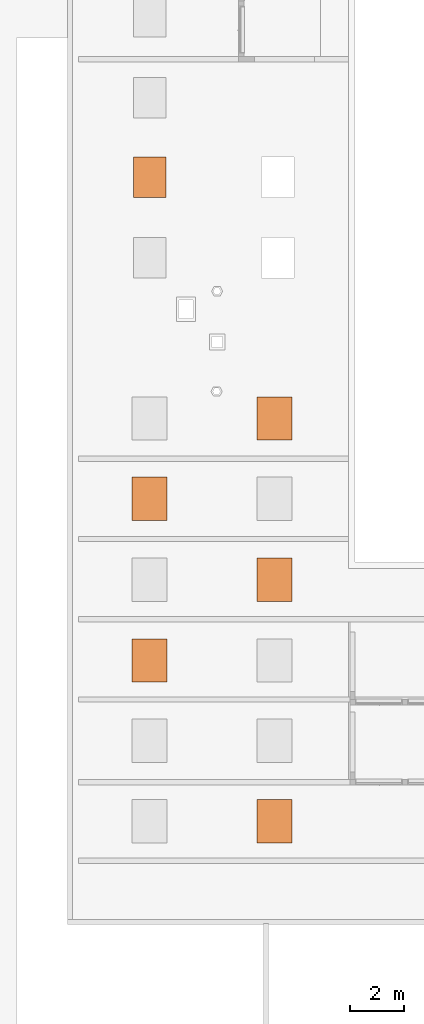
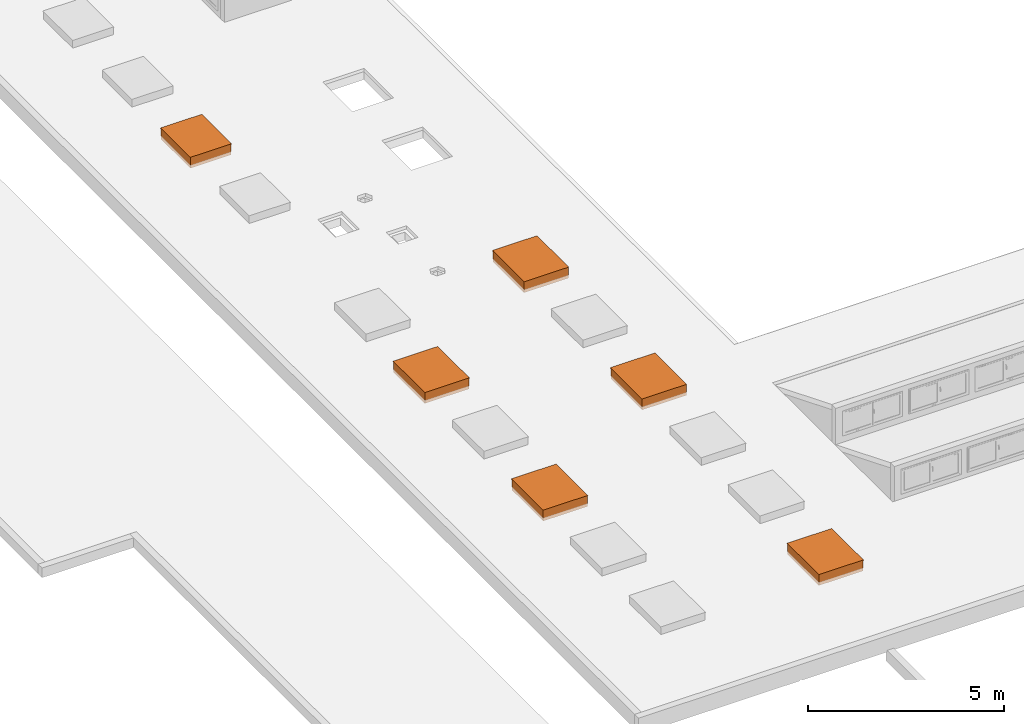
# One storey, part 3 of 4: 6 proxies.
"""IFC2X3 building model written with IfcOpenShell, lengths in metres."""

from ifc_helpers import new_model, entity, si_unit, converted_unit, derived_unit, direction, frame, origin, place, context, subcontext, project, spatial, faceted_brep, source, transform, mapped, material, material_list, type_object, type_shapes, element, save


model = new_model("IFC2X3")

# Units and contexts
model_context = context("Model", 3, precision=1e-05, world=origin(), true_north=direction((6.12303176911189e-17, 1.0)))
body_context = subcontext(model_context, "Body", "Model", "MODEL_VIEW")
ifc_project = project(units=[si_unit("LENGTHUNIT", "METRE"), si_unit("AREAUNIT", "SQUARE_METRE"), si_unit("VOLUMEUNIT", "CUBIC_METRE"), converted_unit("PLANEANGLEUNIT", "DEGREE", entity("IfcRatioMeasure", 0.0174532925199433), si_unit("PLANEANGLEUNIT", "RADIAN"), dimensions=[0, 0, 0, 0, 0, 0, 0]), si_unit("MASSUNIT", "GRAM", prefix="KILO"), derived_unit("MASSDENSITYUNIT", [(si_unit("MASSUNIT", "GRAM", prefix="KILO"), 1), (si_unit("LENGTHUNIT", "METRE"), -3)]), derived_unit("MOMENTOFINERTIAUNIT", [(si_unit("LENGTHUNIT", "METRE"), 4)]), si_unit("TIMEUNIT", "SECOND"), si_unit("FREQUENCYUNIT", "HERTZ"), si_unit("THERMODYNAMICTEMPERATUREUNIT", "DEGREE_CELSIUS"), derived_unit("THERMALTRANSMITTANCEUNIT", [(si_unit("MASSUNIT", "GRAM", prefix="KILO"), 1), (si_unit("THERMODYNAMICTEMPERATUREUNIT", "KELVIN"), -1), (si_unit("TIMEUNIT", "SECOND"), -3)]), derived_unit("VOLUMETRICFLOWRATEUNIT", [(si_unit("LENGTHUNIT", "METRE"), 3), (si_unit("TIMEUNIT", "SECOND"), -1)]), si_unit("ELECTRICCURRENTUNIT", "AMPERE"), si_unit("ELECTRICVOLTAGEUNIT", "VOLT"), si_unit("POWERUNIT", "WATT"), si_unit("FORCEUNIT", "NEWTON", prefix="KILO"), si_unit("ILLUMINANCEUNIT", "LUX"), si_unit("LUMINOUSFLUXUNIT", "LUMEN"), si_unit("LUMINOUSINTENSITYUNIT", "CANDELA"), derived_unit("USERDEFINED", [(si_unit("MASSUNIT", "GRAM", prefix="KILO"), -1), (si_unit("LENGTHUNIT", "METRE"), -2), (si_unit("TIMEUNIT", "SECOND"), 3), (si_unit("LUMINOUSFLUXUNIT", "LUMEN"), 1)]), derived_unit("LINEARVELOCITYUNIT", [(si_unit("LENGTHUNIT", "METRE"), 1), (si_unit("TIMEUNIT", "SECOND"), -1)]), si_unit("PRESSUREUNIT", "PASCAL"), derived_unit("USERDEFINED", [(si_unit("LENGTHUNIT", "METRE"), -2), (si_unit("MASSUNIT", "GRAM", prefix="KILO"), 1), (si_unit("TIMEUNIT", "SECOND"), -2)]), derived_unit("LINEARFORCEUNIT", [(si_unit("MASSUNIT", "GRAM", prefix="KILO"), 1), (si_unit("LENGTHUNIT", "METRE"), 1), (si_unit("TIMEUNIT", "SECOND"), -2), (si_unit("LENGTHUNIT", "METRE"), -1)]), derived_unit("PLANARFORCEUNIT", [(si_unit("MASSUNIT", "GRAM", prefix="KILO"), 1), (si_unit("LENGTHUNIT", "METRE"), 1), (si_unit("TIMEUNIT", "SECOND"), -2), (si_unit("LENGTHUNIT", "METRE"), -2)])], contexts=[model_context])

# Site, building, storey
site_placement = place(None, origin())
site = spatial("IfcSite", under=ifc_project, at=site_placement, Name="Default", CompositionType="ELEMENT")
building_placement = place(site_placement, origin())
building = spatial("IfcBuilding", under=site, at=building_placement, CompositionType="ELEMENT")
storey_placement = place(building_placement, frame((0.0, 0.0, 3.95330827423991)))
storey = spatial("IfcBuildingStorey", under=building, at=storey_placement, Name="Niveau 1 - 01", CompositionType="ELEMENT", Elevation=3.95330827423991)

# Proxies
ifc_material_1 = material(Name="Verre")
ifc_material_2 = material(Name="Métal - Aluminium")
ifc_material_list_1 = material_list([ifc_material_1, ifc_material_2])
ifc_material_list_2 = material_list([ifc_material_2, ifc_material_1])
building_element_proxy_type_1 = type_object("IfcBuildingElementProxyType", Name="Famille 0:Famille 150x120", PredefinedType="NOTDEFINED", material=ifc_material_list_2)
shared_shape_1 = source(origin(), body_context, "Body", "Brep", [
    faceted_brep([(0.774999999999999, -0.625000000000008, 0.175991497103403), (-0.775000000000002, -0.625000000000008, 0.175991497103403), (-0.775000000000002, 0.624999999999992, 0.175991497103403), (0.774999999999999, 0.624999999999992, 0.175991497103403), (0.774999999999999, -0.625000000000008, 0.195154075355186), (0.774999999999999, 0.624999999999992, 0.195154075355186), (-0.775000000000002, 0.624999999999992, 0.195154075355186), (-0.775000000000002, -0.625000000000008, 0.195154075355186)], [[[0, 1, 2, 3]], [[4, 5, 6, 7]], [[5, 4, 0, 3]], [[6, 5, 3, 2]], [[7, 6, 2, 1]], [[4, 7, 1, 0]]]),
    faceted_brep([(-0.775000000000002, -0.625000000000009, 0.195154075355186), (-0.8075, -0.657500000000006, 0.195154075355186), (0.807499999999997, -0.657500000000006, 0.195154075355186), (0.774999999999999, -0.625000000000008, 0.195154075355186), (-0.750000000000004, -0.600000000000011, -0.150000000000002), (-0.750000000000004, -0.600000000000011, 0.175991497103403), (0.750000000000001, -0.600000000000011, 0.175991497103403), (0.750000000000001, -0.600000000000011, -0.150000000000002), (-0.8, -0.650000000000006, -0.150000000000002), (0.799999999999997, -0.650000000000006, -0.150000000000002), (0.807499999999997, 0.657499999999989, 0.195154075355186), (0.774999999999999, 0.624999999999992, 0.195154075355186), (0.750000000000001, 0.599999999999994, 0.175991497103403), (0.750000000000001, 0.599999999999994, -0.150000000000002), (0.799999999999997, 0.64999999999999, -0.150000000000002), (-0.8075, 0.65749999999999, 0.195154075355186), (-0.775000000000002, 0.624999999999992, 0.195154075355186), (-0.750000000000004, 0.599999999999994, 0.175991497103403), (-0.750000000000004, 0.599999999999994, -0.150000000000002), (-0.8, 0.64999999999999, -0.150000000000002), (-0.8075, -0.657500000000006, 0.169999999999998), (-0.8, -0.650000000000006, 0.169999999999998), (0.799999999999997, -0.650000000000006, 0.169999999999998), (0.807499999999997, -0.657500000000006, 0.169999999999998), (-0.775000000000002, -0.625000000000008, 0.175991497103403), (0.774999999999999, -0.625000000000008, 0.175991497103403), (0.799999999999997, 0.64999999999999, 0.169999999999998), (0.807499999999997, 0.657499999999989, 0.169999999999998), (0.774999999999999, 0.624999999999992, 0.175991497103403), (-0.8, 0.64999999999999, 0.169999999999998), (-0.8075, 0.65749999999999, 0.169999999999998), (-0.775000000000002, 0.624999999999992, 0.175991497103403)], [[[0, 1, 2, 3]], [[4, 5, 6, 7]], [[8, 4, 7, 9]], [[3, 2, 10, 11]], [[7, 6, 12, 13]], [[9, 7, 13, 14]], [[11, 10, 15, 16]], [[13, 12, 17, 18]], [[14, 13, 18, 19]], [[16, 15, 1, 0]], [[18, 17, 5, 4]], [[19, 18, 4, 8]], [[20, 21, 22, 23]], [[24, 0, 3, 25]], [[5, 24, 25, 6]], [[23, 22, 26, 27]], [[25, 3, 11, 28]], [[6, 25, 28, 12]], [[27, 26, 29, 30]], [[28, 11, 16, 31]], [[12, 28, 31, 17]], [[30, 29, 21, 20]], [[31, 16, 0, 24]], [[17, 31, 24, 5]], [[21, 8, 9, 22]], [[1, 20, 23, 2]], [[22, 9, 14, 26]], [[2, 23, 27, 10]], [[26, 14, 19, 29]], [[10, 27, 30, 15]], [[29, 19, 8, 21]], [[15, 30, 20, 1]]]),
])
type_shapes(building_element_proxy_type_1, [shared_shape_1])
proxy_1_placement = place(storey_placement, frame((-28.6109246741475, -15.6078229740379, 0.150000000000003), z_axis=(0.0, 0.0, 1.0), x_axis=(0.0, 1.0, 0.0)))
element("IfcBuildingElementProxy", 1, at=proxy_1_placement, inside=storey, type_object=building_element_proxy_type_1, material=ifc_material_list_1, Name="Famille 0:Famille 150x120", ObjectType="Famille 0:Famille 150x120", context=body_context, shape_type="MappedRepresentation", body=[
    mapped(shared_shape_1, transform((0.0, 0.0, 0.0), scale=1.0)),
])
ifc_material_list_3 = material_list([ifc_material_1, ifc_material_2])
proxy_2_placement = place(storey_placement, frame((-28.6109246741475, -21.6278229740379, 0.150000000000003), z_axis=(0.0, 0.0, 1.0), x_axis=(0.0, 1.0, 0.0)))
element("IfcBuildingElementProxy", 2, at=proxy_2_placement, inside=storey, type_object=building_element_proxy_type_1, material=ifc_material_list_3, Name="Famille 0:Famille 150x120", ObjectType="Famille 0:Famille 150x120", context=body_context, shape_type="MappedRepresentation", body=[
    mapped(shared_shape_1, transform((0.0, 0.0, 0.0), scale=1.0)),
])
ifc_material_list_4 = material_list([ifc_material_1, ifc_material_2])
proxy_3_placement = place(storey_placement, frame((-28.6109246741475, -30.647822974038, 0.150000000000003), z_axis=(0.0, 0.0, 1.0), x_axis=(0.0, 1.0, 0.0)))
element("IfcBuildingElementProxy", 3, at=proxy_3_placement, inside=storey, type_object=building_element_proxy_type_1, material=ifc_material_list_4, Name="Famille 0:Famille 150x120", ObjectType="Famille 0:Famille 150x120", context=body_context, shape_type="MappedRepresentation", body=[
    mapped(shared_shape_1, transform((0.0, 0.0, 0.0), scale=1.0)),
])
ifc_material_list_5 = material_list([ifc_material_1, ifc_material_2])
proxy_4_placement = place(storey_placement, frame((-33.2690462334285, -18.6078229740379, 0.150000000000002), z_axis=(0.0, 0.0, 1.0), x_axis=(0.0, 1.0, 0.0)))
element("IfcBuildingElementProxy", 4, at=proxy_4_placement, inside=storey, type_object=building_element_proxy_type_1, material=ifc_material_list_5, Name="Famille 0:Famille 150x120", ObjectType="Famille 0:Famille 150x120", context=body_context, shape_type="MappedRepresentation", body=[
    mapped(shared_shape_1, transform((0.0, 0.0, 0.0), scale=1.0)),
])
ifc_material_list_6 = material_list([ifc_material_1, ifc_material_2])
proxy_5_placement = place(storey_placement, frame((-33.2690462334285, -24.6478229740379, 0.150000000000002), z_axis=(0.0, 0.0, 1.0), x_axis=(0.0, 1.0, 0.0)))
element("IfcBuildingElementProxy", 5, at=proxy_5_placement, inside=storey, type_object=building_element_proxy_type_1, material=ifc_material_list_6, Name="Famille 0:Famille 150x120", ObjectType="Famille 0:Famille 150x120", context=body_context, shape_type="MappedRepresentation", body=[
    mapped(shared_shape_1, transform((0.0, 0.0, 0.0), scale=1.0)),
])
ifc_material_list_7 = material_list([ifc_material_1, ifc_material_2])
ifc_material_list_8 = material_list([ifc_material_2, ifc_material_1])
building_element_proxy_type_2 = type_object("IfcBuildingElementProxyType", Name="Famille 0:Famille 140x110", PredefinedType="NOTDEFINED", material=ifc_material_list_8)
shared_shape_2 = source(origin(), body_context, "Body", "Brep", [
    faceted_brep([(0.724999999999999, -0.575000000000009, 0.175991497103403), (-0.725000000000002, -0.575000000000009, 0.175991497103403), (-0.725000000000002, 0.574999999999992, 0.175991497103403), (0.724999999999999, 0.574999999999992, 0.175991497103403), (0.724999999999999, -0.575000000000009, 0.195154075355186), (0.724999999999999, 0.574999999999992, 0.195154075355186), (-0.725000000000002, 0.574999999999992, 0.195154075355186), (-0.725000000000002, -0.575000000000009, 0.195154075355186)], [[[0, 1, 2, 3]], [[4, 5, 6, 7]], [[5, 4, 0, 3]], [[6, 5, 3, 2]], [[7, 6, 2, 1]], [[4, 7, 1, 0]]]),
    faceted_brep([(-0.7575, -0.607500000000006, 0.169999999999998), (-0.75, -0.600000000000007, 0.169999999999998), (0.749999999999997, -0.600000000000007, 0.169999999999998), (0.757499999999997, -0.607500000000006, 0.169999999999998), (-0.725000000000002, -0.575000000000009, 0.195154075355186), (-0.7575, -0.607500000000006, 0.195154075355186), (0.757499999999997, -0.607500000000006, 0.195154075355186), (0.724999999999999, -0.575000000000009, 0.195154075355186), (-0.725000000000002, -0.575000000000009, 0.175991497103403), (0.724999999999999, -0.575000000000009, 0.175991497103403), (-0.700000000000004, -0.550000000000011, 0.175991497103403), (0.700000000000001, -0.550000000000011, 0.175991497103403), (-0.700000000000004, -0.550000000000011, -0.150000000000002), (0.700000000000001, -0.550000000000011, -0.150000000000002), (-0.75, -0.600000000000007, -0.150000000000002), (0.749999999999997, -0.600000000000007, -0.150000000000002), (0.749999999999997, 0.59999999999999, 0.169999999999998), (0.757499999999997, 0.607499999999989, 0.169999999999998), (0.757499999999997, 0.60749999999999, 0.195154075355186), (0.724999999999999, 0.574999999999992, 0.195154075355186), (0.724999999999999, 0.574999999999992, 0.175991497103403), (0.700000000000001, 0.549999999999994, 0.175991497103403), (0.700000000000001, 0.549999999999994, -0.150000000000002), (0.749999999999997, 0.59999999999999, -0.150000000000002), (-0.75, 0.59999999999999, 0.169999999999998), (-0.7575, 0.60749999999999, 0.169999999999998), (-0.7575, 0.60749999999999, 0.195154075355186), (-0.725000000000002, 0.574999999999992, 0.195154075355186), (-0.725000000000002, 0.574999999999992, 0.175991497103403), (-0.700000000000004, 0.549999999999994, 0.175991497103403), (-0.700000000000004, 0.549999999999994, -0.150000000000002), (-0.75, 0.59999999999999, -0.150000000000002)], [[[0, 1, 2, 3]], [[4, 5, 6, 7]], [[8, 4, 7, 9]], [[10, 8, 9, 11]], [[12, 10, 11, 13]], [[14, 12, 13, 15]], [[3, 2, 16, 17]], [[7, 6, 18, 19]], [[9, 7, 19, 20]], [[11, 9, 20, 21]], [[13, 11, 21, 22]], [[15, 13, 22, 23]], [[17, 16, 24, 25]], [[19, 18, 26, 27]], [[20, 19, 27, 28]], [[21, 20, 28, 29]], [[22, 21, 29, 30]], [[23, 22, 30, 31]], [[25, 24, 1, 0]], [[27, 26, 5, 4]], [[28, 27, 4, 8]], [[29, 28, 8, 10]], [[30, 29, 10, 12]], [[31, 30, 12, 14]], [[1, 14, 15, 2]], [[5, 0, 3, 6]], [[2, 15, 23, 16]], [[6, 3, 17, 18]], [[16, 23, 31, 24]], [[18, 17, 25, 26]], [[24, 31, 14, 1]], [[26, 25, 0, 5]]]),
])
type_shapes(building_element_proxy_type_2, [shared_shape_2])
proxy_6_placement = place(storey_placement, frame((-33.2690462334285, -6.60282297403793, 0.150000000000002), z_axis=(0.0, 0.0, 1.0), x_axis=(0.0, 1.0, 0.0)))
element("IfcBuildingElementProxy", 6, at=proxy_6_placement, inside=storey, type_object=building_element_proxy_type_2, material=ifc_material_list_7, Name="Famille 0:Famille 140x110", ObjectType="Famille 0:Famille 140x110", context=body_context, shape_type="MappedRepresentation", body=[
    mapped(shared_shape_2, transform((0.0, 0.0, 0.0), scale=1.0)),
])

save(model, "model.ifc")
